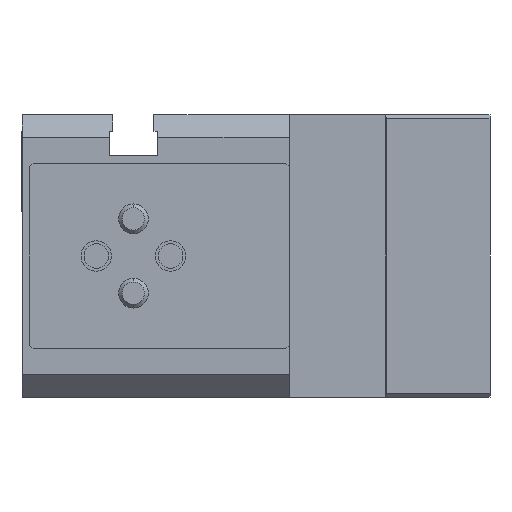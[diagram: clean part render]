
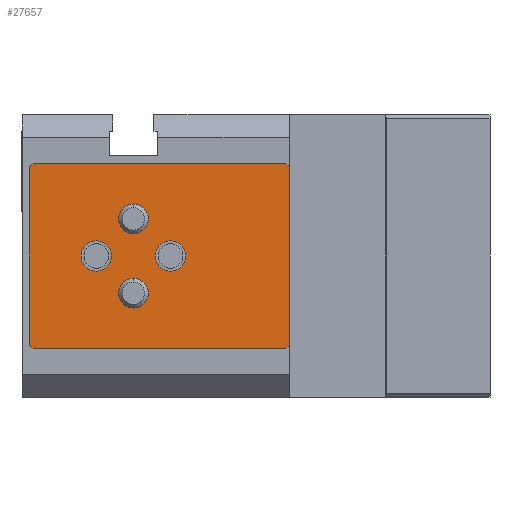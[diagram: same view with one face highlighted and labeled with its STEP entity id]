
A CAD part, left-side view. The second image highlights one B-rep face of the part: STEP entity #27657.
In plain terms, the highlighted planar face has unit normal (-1, 0, 0) as drawn and (1, 0, 0) by its records, which use the part's own axes.
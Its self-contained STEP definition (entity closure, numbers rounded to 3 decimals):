
#785 = CARTESIAN_POINT ( 'NONE',  ( 0., 21., 5. ) ) ;
#1074 = CARTESIAN_POINT ( 'NONE',  ( 0., 34.5, 12.5 ) ) ;
#1306 = CARTESIAN_POINT ( 'NONE',  ( 0., 26., 2.05 ) ) ;
#1672 = VERTEX_POINT ( 'NONE', #41978 ) ;
#1706 = ORIENTED_EDGE ( 'NONE', *, *, #45836, .F. ) ;
#2153 = VECTOR ( 'NONE', #28741, 1000. ) ;
#2524 = LINE ( 'NONE', #35102, #34101 ) ;
#2671 = VERTEX_POINT ( 'NONE', #42400 ) ;
#2935 = EDGE_CURVE ( 'NONE', #48934, #25927, #12677, .T. ) ;
#3014 = VERTEX_POINT ( 'NONE', #5866 ) ;
#3019 = VERTEX_POINT ( 'NONE', #9848 ) ;
#3312 = EDGE_CURVE ( 'NONE', #3019, #26862, #39252, .T. ) ;
#3750 = CARTESIAN_POINT ( 'NONE',  ( 0., 16., 0. ) ) ;
#3844 = AXIS2_PLACEMENT_3D ( 'NONE', #42868, #19232, #46873 ) ;
#4138 = CARTESIAN_POINT ( 'NONE',  ( 0., 26., 0. ) ) ;
#4447 = DIRECTION ( 'NONE',  ( 1., 0., 0. ) ) ;
#4572 = EDGE_CURVE ( 'NONE', #25790, #26550, #6398, .T. ) ;
#4750 = DIRECTION ( 'NONE',  ( 0., 0., 1. ) ) ;
#5671 = ORIENTED_EDGE ( 'NONE', *, *, #8990, .F. ) ;
#5866 = CARTESIAN_POINT ( 'NONE',  ( 0., 21., -7. ) ) ;
#5985 = CARTESIAN_POINT ( 'NONE',  ( 0., 35., 12.5 ) ) ;
#6398 = CIRCLE ( 'NONE', #34829, 2.05 ) ;
#7478 = CIRCLE ( 'NONE', #3844, 2.05 ) ;
#7706 = DIRECTION ( 'NONE',  ( 0., 0., -1. ) ) ;
#8104 = DIRECTION ( 'NONE',  ( 0., 0., -1. ) ) ;
#8656 = VERTEX_POINT ( 'NONE', #33571 ) ;
#8689 = EDGE_CURVE ( 'NONE', #33466, #1672, #34781, .T. ) ;
#8990 = EDGE_CURVE ( 'NONE', #3014, #47309, #31066, .T. ) ;
#9062 = CARTESIAN_POINT ( 'NONE',  ( 0., 0.5, -12.5 ) ) ;
#9179 = DIRECTION ( 'NONE',  ( 1., 0., 0. ) ) ;
#9280 = AXIS2_PLACEMENT_3D ( 'NONE', #785, #28486, #4750 ) ;
#9655 = EDGE_LOOP ( 'NONE', ( #28468, #9880 ) ) ;
#9675 = ORIENTED_EDGE ( 'NONE', *, *, #29332, .T. ) ;
#9848 = CARTESIAN_POINT ( 'NONE',  ( 0., 21., 7. ) ) ;
#9880 = ORIENTED_EDGE ( 'NONE', *, *, #23769, .F. ) ;
#9964 = PLANE ( 'NONE',  #44543 ) ;
#11352 = ORIENTED_EDGE ( 'NONE', *, *, #42237, .F. ) ;
#11355 = VECTOR ( 'NONE', #17063, 1000. ) ;
#11644 = CIRCLE ( 'NONE', #18309, 2.05 ) ;
#12580 = CARTESIAN_POINT ( 'NONE',  ( 0., 34.5, -12.5 ) ) ;
#12677 = LINE ( 'NONE', #44444, #2153 ) ;
#13205 = VERTEX_POINT ( 'NONE', #37241 ) ;
#14418 = ORIENTED_EDGE ( 'NONE', *, *, #4572, .F. ) ;
#14530 = VECTOR ( 'NONE', #29752, 1000. ) ;
#14598 = CARTESIAN_POINT ( 'NONE',  ( 0., 26., 0. ) ) ;
#14857 = CARTESIAN_POINT ( 'NONE',  ( 0., 21., 5. ) ) ;
#15223 = FACE_BOUND ( 'NONE', #22215, .T. ) ;
#15255 = VECTOR ( 'NONE', #21866, 1000. ) ;
#15423 = DIRECTION ( 'NONE',  ( 0., 1., 0. ) ) ;
#15731 = CARTESIAN_POINT ( 'NONE',  ( 0., 0., 12.5 ) ) ;
#16130 = CIRCLE ( 'NONE', #45000, 2. ) ;
#16713 = EDGE_LOOP ( 'NONE', ( #1706, #14418 ) ) ;
#17063 = DIRECTION ( 'NONE',  ( 0., -0.707, 0.707 ) ) ;
#17238 = CARTESIAN_POINT ( 'NONE',  ( 0., 21., 3. ) ) ;
#17273 = DIRECTION ( 'NONE',  ( 0., 0., -1. ) ) ;
#17743 = VECTOR ( 'NONE', #17273, 1000. ) ;
#18309 = AXIS2_PLACEMENT_3D ( 'NONE', #14598, #42224, #18607 ) ;
#18607 = DIRECTION ( 'NONE',  ( 0., 0., -1. ) ) ;
#18861 = DIRECTION ( 'NONE',  ( 0., 0., 1. ) ) ;
#19232 = DIRECTION ( 'NONE',  ( 1., 0., 0. ) ) ;
#20643 = CIRCLE ( 'NONE', #21734, 2.05 ) ;
#21390 = CARTESIAN_POINT ( 'NONE',  ( 0., 0., 12. ) ) ;
#21734 = AXIS2_PLACEMENT_3D ( 'NONE', #3750, #31438, #7706 ) ;
#21791 = VERTEX_POINT ( 'NONE', #1074 ) ;
#21866 = DIRECTION ( 'NONE',  ( 0., 0., 1. ) ) ;
#21937 = DIRECTION ( 'NONE',  ( 0., 0., 1. ) ) ;
#22010 = ORIENTED_EDGE ( 'NONE', *, *, #2935, .F. ) ;
#22215 = EDGE_LOOP ( 'NONE', ( #36596, #39099 ) ) ;
#22624 = EDGE_CURVE ( 'NONE', #25927, #23435, #32431, .T. ) ;
#23342 = CIRCLE ( 'NONE', #32988, 2. ) ;
#23435 = VERTEX_POINT ( 'NONE', #43240 ) ;
#23769 = EDGE_CURVE ( 'NONE', #2671, #35347, #20643, .T. ) ;
#23854 = EDGE_CURVE ( 'NONE', #48934, #8656, #50934, .T. ) ;
#24519 = DIRECTION ( 'NONE',  ( 0., 0.707, 0.707 ) ) ;
#25472 = EDGE_CURVE ( 'NONE', #26862, #3019, #23342, .T. ) ;
#25748 = FACE_BOUND ( 'NONE', #16713, .T. ) ;
#25790 = VERTEX_POINT ( 'NONE', #1306 ) ;
#25927 = VERTEX_POINT ( 'NONE', #34326 ) ;
#26550 = VERTEX_POINT ( 'NONE', #44587 ) ;
#26862 = VERTEX_POINT ( 'NONE', #17238 ) ;
#27566 = EDGE_CURVE ( 'NONE', #13205, #8656, #48011, .T. ) ;
#27657 = ADVANCED_FACE ( 'NONE', ( #28215, #46776, #36229, #25748, #15223 ), #9964, .F. ) ;
#27751 = ORIENTED_EDGE ( 'NONE', *, *, #48608, .F. ) ;
#28169 = CARTESIAN_POINT ( 'NONE',  ( 0., 21., -5. ) ) ;
#28215 = FACE_BOUND ( 'NONE', #41019, .T. ) ;
#28468 = ORIENTED_EDGE ( 'NONE', *, *, #34023, .F. ) ;
#28486 = DIRECTION ( 'NONE',  ( 1., 0., 0. ) ) ;
#28741 = DIRECTION ( 'NONE',  ( 0., -1., 0. ) ) ;
#29257 = ORIENTED_EDGE ( 'NONE', *, *, #22624, .F. ) ;
#29332 = EDGE_CURVE ( 'NONE', #13205, #21791, #35523, .T. ) ;
#29752 = DIRECTION ( 'NONE',  ( 0., -0.707, 0.707 ) ) ;
#31066 = CIRCLE ( 'NONE', #50332, 2. ) ;
#31438 = DIRECTION ( 'NONE',  ( 1., 0., 0. ) ) ;
#31827 = DIRECTION ( 'NONE',  ( 1., 0., 0. ) ) ;
#32134 = DIRECTION ( 'NONE',  ( 0., 0., 1. ) ) ;
#32431 = LINE ( 'NONE', #9062, #11355 ) ;
#32898 = CARTESIAN_POINT ( 'NONE',  ( 0., 21., -5. ) ) ;
#32988 = AXIS2_PLACEMENT_3D ( 'NONE', #14857, #42492, #18861 ) ;
#33466 = VERTEX_POINT ( 'NONE', #21390 ) ;
#33571 = CARTESIAN_POINT ( 'NONE',  ( 0., 35., -12. ) ) ;
#33717 = CARTESIAN_POINT ( 'NONE',  ( 0., 35., 12. ) ) ;
#34023 = EDGE_CURVE ( 'NONE', #35347, #2671, #7478, .T. ) ;
#34101 = VECTOR ( 'NONE', #15423, 1000. ) ;
#34189 = EDGE_LOOP ( 'NONE', ( #29257, #22010, #43704, #45719, #9675, #11352, #42253, #27751 ) ) ;
#34326 = CARTESIAN_POINT ( 'NONE',  ( 0., 0.5, -12.5 ) ) ;
#34781 = LINE ( 'NONE', #45674, #36006 ) ;
#34829 = AXIS2_PLACEMENT_3D ( 'NONE', #4138, #31827, #8104 ) ;
#35102 = CARTESIAN_POINT ( 'NONE',  ( 0., 0., 12.5 ) ) ;
#35347 = VERTEX_POINT ( 'NONE', #40553 ) ;
#35523 = LINE ( 'NONE', #33717, #14530 ) ;
#36006 = VECTOR ( 'NONE', #37878, 1000. ) ;
#36229 = FACE_BOUND ( 'NONE', #9655, .T. ) ;
#36596 = ORIENTED_EDGE ( 'NONE', *, *, #3312, .F. ) ;
#36866 = DIRECTION ( 'NONE',  ( 0., 0., 1. ) ) ;
#37241 = CARTESIAN_POINT ( 'NONE',  ( 0., 35., 12. ) ) ;
#37723 = EDGE_CURVE ( 'NONE', #47309, #3014, #16130, .T. ) ;
#37878 = DIRECTION ( 'NONE',  ( 0., 0.707, 0.707 ) ) ;
#39099 = ORIENTED_EDGE ( 'NONE', *, *, #25472, .F. ) ;
#39157 = VECTOR ( 'NONE', #24519, 1000. ) ;
#39252 = CIRCLE ( 'NONE', #9280, 2. ) ;
#40553 = CARTESIAN_POINT ( 'NONE',  ( 0., 16., -2.05 ) ) ;
#40761 = CARTESIAN_POINT ( 'NONE',  ( 0., 21., -3. ) ) ;
#41019 = EDGE_LOOP ( 'NONE', ( #45369, #5671 ) ) ;
#41137 = CARTESIAN_POINT ( 'NONE',  ( 0., 34.5, -12.5 ) ) ;
#41978 = CARTESIAN_POINT ( 'NONE',  ( 0., 0.5, 12.5 ) ) ;
#42224 = DIRECTION ( 'NONE',  ( 1., 0., 0. ) ) ;
#42237 = EDGE_CURVE ( 'NONE', #1672, #21791, #2524, .T. ) ;
#42253 = ORIENTED_EDGE ( 'NONE', *, *, #8689, .F. ) ;
#42400 = CARTESIAN_POINT ( 'NONE',  ( 0., 16., 2.05 ) ) ;
#42492 = DIRECTION ( 'NONE',  ( 1., 0., 0. ) ) ;
#42868 = CARTESIAN_POINT ( 'NONE',  ( 0., 16., 0. ) ) ;
#43240 = CARTESIAN_POINT ( 'NONE',  ( 0., 0., -12. ) ) ;
#43704 = ORIENTED_EDGE ( 'NONE', *, *, #23854, .T. ) ;
#44444 = CARTESIAN_POINT ( 'NONE',  ( 0., 0., -12.5 ) ) ;
#44543 = AXIS2_PLACEMENT_3D ( 'NONE', #5985, #45610, #21937 ) ;
#44587 = CARTESIAN_POINT ( 'NONE',  ( 0., 26., -2.05 ) ) ;
#44910 = CARTESIAN_POINT ( 'NONE',  ( 0., 35., 12.5 ) ) ;
#45000 = AXIS2_PLACEMENT_3D ( 'NONE', #32898, #9179, #36866 ) ;
#45369 = ORIENTED_EDGE ( 'NONE', *, *, #37723, .F. ) ;
#45610 = DIRECTION ( 'NONE',  ( -1., 0., 0. ) ) ;
#45674 = CARTESIAN_POINT ( 'NONE',  ( 0., 0., 12. ) ) ;
#45719 = ORIENTED_EDGE ( 'NONE', *, *, #27566, .F. ) ;
#45836 = EDGE_CURVE ( 'NONE', #26550, #25790, #11644, .T. ) ;
#46776 = FACE_OUTER_BOUND ( 'NONE', #34189, .T. ) ;
#46807 = LINE ( 'NONE', #15731, #15255 ) ;
#46873 = DIRECTION ( 'NONE',  ( 0., 0., -1. ) ) ;
#47309 = VERTEX_POINT ( 'NONE', #40761 ) ;
#48011 = LINE ( 'NONE', #44910, #17743 ) ;
#48608 = EDGE_CURVE ( 'NONE', #23435, #33466, #46807, .T. ) ;
#48934 = VERTEX_POINT ( 'NONE', #41137 ) ;
#50332 = AXIS2_PLACEMENT_3D ( 'NONE', #28169, #4447, #32134 ) ;
#50934 = LINE ( 'NONE', #12580, #39157 ) ;
